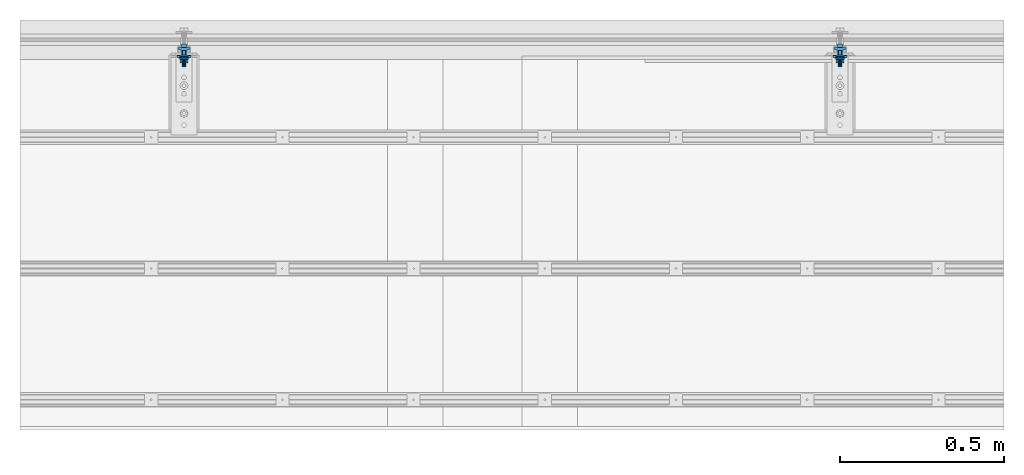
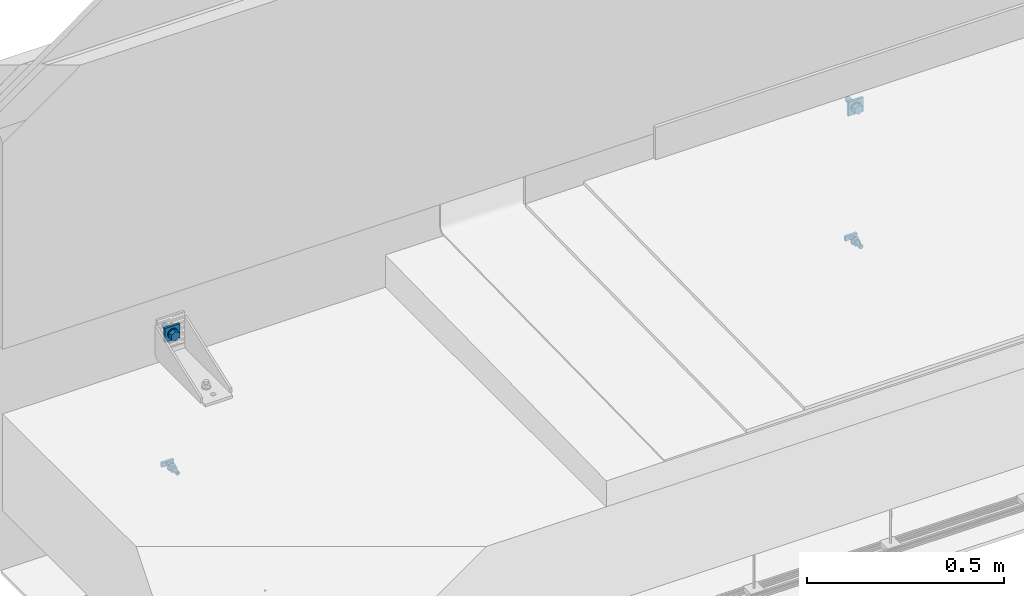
# One storey, part 5 of 8: 12 assemblies.
"""IFC2X3 building model written with IfcOpenShell, lengths in metres."""

from ifc_helpers import new_model, entity, si_unit, converted_unit, derived_unit, direction, frame, frame_2d, origin, place, context, subcontext, project, spatial, polyline, circle_curve, parameter, trimmed, segment, composite_curve, circle, hollow_circle, outline, extrude, faceted_brep, source, transform, mapped, material, type_object, type_shapes, element, save


model = new_model("IFC2X3")

# Units and contexts
model_context = context("Model", 3, precision=1e-05, world=origin(), true_north=direction((6.123031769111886e-17, 1.0)))
body_context = subcontext(model_context, "Body", "Model", "MODEL_VIEW")
ifc_project = project(units=[si_unit("LENGTHUNIT", "METRE"), si_unit("AREAUNIT", "SQUARE_METRE"), converted_unit("PLANEANGLEUNIT", "DEGREE", entity("IfcPlaneAngleMeasure", 0.017453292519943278), si_unit("PLANEANGLEUNIT", "RADIAN"), dimensions=[0, 0, 0, 0, 0, 0, 0]), si_unit("VOLUMEUNIT", "CUBIC_METRE"), derived_unit("THERMALTRANSMITTANCEUNIT", [(si_unit("MASSUNIT", "GRAM", prefix="KILO"), 1), (si_unit("THERMODYNAMICTEMPERATUREUNIT", "KELVIN"), -1), (si_unit("TIMEUNIT", "SECOND"), -3)]), derived_unit("USERDEFINED", [(si_unit("MASSUNIT", "GRAM", prefix="KILO"), 1), (si_unit("THERMODYNAMICTEMPERATUREUNIT", "KELVIN"), -1), (si_unit("TIMEUNIT", "SECOND"), -2)]), derived_unit("THERMALRESISTANCEUNIT", [(si_unit("MASSUNIT", "GRAM", prefix="KILO"), -1), (si_unit("TIMEUNIT", "SECOND"), 3), (si_unit("THERMODYNAMICTEMPERATUREUNIT", "KELVIN"), 1)]), si_unit("PRESSUREUNIT", "PASCAL"), derived_unit("MASSDENSITYUNIT", [(si_unit("MASSUNIT", "GRAM", prefix="KILO"), 1), (si_unit("LENGTHUNIT", "METRE"), -3)]), derived_unit("VAPORPERMEABILITYUNIT", [(si_unit("LENGTHUNIT", "METRE"), -1), (si_unit("TIMEUNIT", "SECOND"), 1)]), derived_unit("USERDEFINED", [(si_unit("MASSUNIT", "GRAM", prefix="KILO"), 1), (si_unit("TIMEUNIT", "SECOND"), -3), (si_unit("LENGTHUNIT", "METRE"), 3), (si_unit("ELECTRICCURRENTUNIT", "AMPERE"), -2)])], contexts=[model_context])

# Site, building, storey
site_placement = place(None, origin())
site = spatial("IfcSite", under=ifc_project, at=site_placement, Name="Default", CompositionType="ELEMENT")
building_placement = place(site_placement, origin())
building = spatial("IfcBuilding", under=site, at=building_placement, CompositionType="ELEMENT")
storey_placement = place(building_placement, origin())
storey = spatial("IfcBuildingStorey", under=building, at=storey_placement, Name="L0", CompositionType="ELEMENT", Elevation=0.0)

# Assemblies
ifc_material = material(Name="REC_Acero, S 275JR (Zincado)")
type_product_1 = type_object("IfcTypeProduct", Name="REC-A-M16:A-M16", material=ifc_material)
shared_shape_1 = source(origin(), body_context, "Body", "SweptSolid", [
    extrude(hollow_circle(Radius=0.015, WallThickness=0.006499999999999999, at=frame_2d((1.062573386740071e-19, -2.4233168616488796e-17), x_axis=(1.0, 0.0))), origin(), (0.0, 0.0, 1.0), 0.003),
])
type_shapes(type_product_1, [shared_shape_1])
for number, where, z_axis, x_axis in (
    (1, (5.387720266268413, 15.919905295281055, 0.07200000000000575), (0.0, -1.0, 0.0), (1.0, 0.0, 0.0)),
    (2, (7.387720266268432, 15.91990529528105, 0.07200000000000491), (0.0, -1.0, 0.0), (1.0, 0.0, 0.0)),
):
    element("IfcElementAssembly", number, at=place(storey_placement, frame(where, z_axis=z_axis, x_axis=x_axis)), inside=storey, type_object=type_product_1, material=ifc_material, Name="REC-A-M16:A-M16", ObjectType="REC-A-M16:A-M16", AssemblyPlace="NOTDEFINED", PredefinedType="NOTDEFINED", context=body_context, shape_type="MappedRepresentation", body=[
        mapped(shared_shape_1, transform((0.0, 0.0, 0.0), scale=1.0)),
    ])
type_product_2 = type_object("IfcTypeProduct", Name="REC-M16-45:M16-45", material=ifc_material)
shared_shape_2 = source(origin(), body_context, "Body", "SweptSolid", [
    extrude(outline(polyline([(-0.0070686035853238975, -0.012243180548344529), (0.007068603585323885, -0.012243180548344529), (0.014137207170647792, 0.0), (0.007068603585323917, 0.012243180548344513), (-0.007068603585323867, 0.012243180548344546), (-0.014137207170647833, 0.0), (-0.0070686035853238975, -0.012243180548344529)])), origin(), (0.0, 0.0, 1.0), 0.013000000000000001),
    extrude(circle(Radius=0.008, at=frame_2d((-5.2874371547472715e-19, -1.2924356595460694e-17), x_axis=(1.0, 0.0))), frame((0.0, 0.0, -0.045000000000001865)), (0.0, 0.0, 1.0), 0.045000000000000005),
])
type_shapes(type_product_2, [shared_shape_2])
for number, where, z_axis, x_axis, name in (
    (3, (5.387720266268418, 15.916905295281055, 0.07199999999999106), (0.0, -1.0, 0.0), (0.0, 0.0, 1.0), "REC-M16-45:M16-45"),
    (4, (7.387720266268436, 15.916905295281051, 0.07199999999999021), (0.0, -1.0, 0.0), (0.0, 0.0, 1.0), "REC-M16-45:M16-45"),
):
    element("IfcElementAssembly", number, at=place(storey_placement, frame(where, z_axis=z_axis, x_axis=x_axis)), inside=storey, type_object=type_product_2, material=ifc_material, Name=name, ObjectType="REC-M16-45:M16-45", AssemblyPlace="NOTDEFINED", PredefinedType="NOTDEFINED", context=body_context, shape_type="MappedRepresentation", body=[
        mapped(shared_shape_2, transform((0.0, 0.0, 0.0), scale=1.0)),
    ])
type_product_3 = type_object("IfcTypeProduct", Name="REC-TPH1250:TPH1250", material=ifc_material)
shared_shape_3 = source(origin(), body_context, "Body", "Brep", [
    faceted_brep([(-0.005512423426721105, 0.006999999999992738, 0.04999470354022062), (-0.005512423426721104, 0.006999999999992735, 0.050994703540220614), (-0.017500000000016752, 0.006999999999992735, 0.050994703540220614), (-0.017500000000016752, 0.006999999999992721, 0.05849470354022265), (0.01750000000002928, 0.006999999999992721, 0.05849470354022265), (0.01750000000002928, 0.006999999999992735, 0.0509947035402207), (0.00551242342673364, 0.006999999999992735, 0.0509947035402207), (0.00551242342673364, 0.006999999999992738, 0.04999470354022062), (-0.005512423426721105, -0.007000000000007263, 0.04999470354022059), (0.00551242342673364, -0.007000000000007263, 0.04999470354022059), (0.00551242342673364, -0.007000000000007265, 0.05099470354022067), (0.01750000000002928, -0.007000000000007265, 0.05099470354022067), (0.01750000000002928, -0.007000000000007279, 0.058494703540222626), (-0.017500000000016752, -0.007000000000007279, 0.058494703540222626), (-0.017500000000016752, -0.007000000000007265, 0.050994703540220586), (-0.005512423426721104, -0.007000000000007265, 0.050994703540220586)], [[[0, 1, 2, 3, 4, 5, 6, 7]], [[8, 9, 10, 11, 12, 13, 14, 15]], [[1, 0, 8, 15]], [[3, 2, 14, 13]], [[4, 3, 13, 12]], [[5, 4, 12, 11]], [[6, 5, 11, 10]], [[7, 6, 10, 9]], [[0, 7, 9, 8]], [[2, 1, 15, 14]]]),
    faceted_brep([(0.002796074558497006, -0.002860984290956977, 0.0489420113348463), (-3.2352566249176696e-05, -0.004032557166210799, 0.0489420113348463), (-0.0028607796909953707, -0.002860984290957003, 0.0489420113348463), (-0.004032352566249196, -3.255716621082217e-05, 0.048942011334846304), (-0.0028607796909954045, 0.0027958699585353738, 0.048942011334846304), (-3.235256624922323e-05, 0.0039674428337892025, 0.04894201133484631), (0.0027960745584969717, 0.0027958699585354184, 0.048942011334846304), (0.00396764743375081, -3.2557166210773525e-05, 0.048942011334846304), (0.002796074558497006, -0.002860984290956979, 0.0499947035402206), (0.00396764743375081, -3.255716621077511e-05, 0.04999470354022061), (0.0027960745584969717, 0.0027958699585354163, 0.04999470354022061), (-3.235256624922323e-05, 0.0039674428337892, 0.04999470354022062), (-0.0028607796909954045, 0.0027958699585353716, 0.04999470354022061), (-0.004032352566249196, -3.2557166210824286e-05, 0.04999470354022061), (-0.0028607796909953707, -0.002860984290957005, 0.0499947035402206), (-3.2352566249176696e-05, -0.0040325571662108, 0.0499947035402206)], [[[0, 1, 2, 3, 4, 5, 6, 7]], [[8, 9, 10, 11, 12, 13, 14, 15]], [[1, 0, 8, 15]], [[2, 1, 15, 14]], [[3, 2, 14, 13]], [[4, 3, 13, 12]], [[5, 4, 12, 11]], [[6, 5, 11, 10]], [[7, 6, 10, 9]], [[0, 7, 9, 8]]]),
    faceted_brep([(0.004541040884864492, -0.00392160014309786, 0.0), (0.0008991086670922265, -0.005932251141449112, 0.0), (0.0008991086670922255, 0.00593225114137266, 0.0), (0.004555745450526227, 0.0039045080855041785, 0.0), (0.005999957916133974, -2.2472309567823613e-05, 0.0), (-0.0008991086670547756, -0.005932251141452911, 0.0), (-0.004556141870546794, -0.00390404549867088, 0.0), (-0.005999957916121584, 2.2472309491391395e-05, 0.0), (-0.004541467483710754, 0.0039211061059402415, 0.0), (-0.0008991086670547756, 0.005932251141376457, 0.0), (2.2472309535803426e-05, 0.0059999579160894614, 0.04894201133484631), (-0.0015311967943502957, 0.005801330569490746, 0.04894201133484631), (-0.002980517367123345, 0.005207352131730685, 0.04894201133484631), (-0.004226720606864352, 0.004258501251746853, 0.04894201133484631), (-0.005184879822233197, 0.0030194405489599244, 0.04894201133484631), (-0.005789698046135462, 0.0015746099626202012, 0.048942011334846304), (-0.005999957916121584, 2.247230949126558e-05, 0.048942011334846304), (-0.005801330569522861, -0.0015311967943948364, 0.048942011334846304), (-0.005207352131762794, -0.0029805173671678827, 0.0489420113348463), (-0.004258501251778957, -0.004226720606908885, 0.0489420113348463), (-0.003019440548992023, -0.005184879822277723, 0.0489420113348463), (-0.001574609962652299, -0.005789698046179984, 0.0489420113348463), (-2.2472309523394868e-05, -0.005999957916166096, 0.0489420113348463), (0.0015311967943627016, -0.005801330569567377, 0.0489420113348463), (0.002980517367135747, -0.005207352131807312, 0.0489420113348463), (0.0042267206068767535, -0.004258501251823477, 0.0489420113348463), (0.005184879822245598, -0.0030194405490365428, 0.0489420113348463), (0.005789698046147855, -0.0015746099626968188, 0.048942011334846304), (0.005999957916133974, -2.2472309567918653e-05, 0.048942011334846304), (0.005801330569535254, 0.0015311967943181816, 0.048942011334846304), (0.005207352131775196, 0.002980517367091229, 0.04894201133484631), (0.004258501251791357, 0.004226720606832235, 0.04894201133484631), (0.0030194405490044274, 0.005184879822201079, 0.04894201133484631), (0.0015746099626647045, 0.005789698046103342, 0.04894201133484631), (0.0008991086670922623, -0.005932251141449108, 0.0014985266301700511), (0.0, -0.0060000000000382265, 0.0014985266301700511), (-0.000899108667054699, -0.005932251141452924, 0.0014985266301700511), (-0.0008991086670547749, 0.005932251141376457, 0.001498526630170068), (0.0, 0.00599999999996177, 0.001498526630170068), (0.0008991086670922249, 0.005932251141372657, 0.001498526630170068)], [[[0, 1, 2, 3, 4]], [[5, 6, 7, 8, 9]], [[10, 11, 12, 13, 14, 15, 16, 17, 18, 19, 20, 21, 22, 23, 24, 25, 26, 27, 28, 29, 30, 31, 32, 33]], [[4, 28, 27]], [[0, 26, 25]], [[27, 26, 0]], [[25, 24, 34]], [[27, 0, 4]], [[24, 23, 34]], [[25, 34, 0]], [[34, 1, 0]], [[22, 35, 34]], [[34, 23, 22]], [[36, 22, 21]], [[36, 20, 19]], [[21, 20, 36]], [[19, 18, 6]], [[5, 36, 6]], [[36, 19, 6]], [[17, 16, 7]], [[17, 7, 6]], [[18, 17, 6]], [[36, 35, 22]], [[7, 16, 15]], [[8, 14, 13]], [[15, 14, 8]], [[13, 12, 37]], [[15, 8, 7]], [[12, 11, 37]], [[13, 37, 8]], [[37, 9, 8]], [[10, 38, 37]], [[37, 11, 10]], [[39, 10, 33]], [[39, 32, 31]], [[33, 32, 39]], [[31, 30, 3]], [[2, 39, 3]], [[39, 31, 3]], [[29, 28, 4]], [[29, 4, 3]], [[30, 29, 3]], [[39, 38, 10]], [[36, 5, 9, 37]], [[34, 35, 36, 37, 38, 39]], [[34, 39, 2, 1]]]),
])
type_shapes(type_product_3, [shared_shape_3])
for number, where, z_axis, x_axis, name in (
    (5, (5.387720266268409, 15.891535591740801, -0.344999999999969), (0.0, 1.0, 0.0), (-1.0, 0.0, 0.0), "REC-TPH1250:TPH1250"),
    (6, (7.387720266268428, 15.891535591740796, -0.3449999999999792), (0.0, 1.0, 0.0), (-1.0, 0.0, 0.0), "REC-TPH1250:TPH1250"),
):
    element("IfcElementAssembly", number, at=place(storey_placement, frame(where, z_axis=z_axis, x_axis=x_axis)), inside=storey, type_object=type_product_3, material=ifc_material, Name=name, ObjectType="REC-TPH1250:TPH1250", AssemblyPlace="NOTDEFINED", PredefinedType="NOTDEFINED", context=body_context, shape_type="MappedRepresentation", body=[
        mapped(shared_shape_3, transform((0.0, 0.0, 0.0), scale=1.0)),
    ])
type_product_4 = type_object("IfcTypeProduct", Name="GEN-A-M12:A-M12", material=ifc_material)
shared_shape_4 = source(origin(), body_context, "Body", "SweptSolid", [
    extrude(hollow_circle(Radius=0.011999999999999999, WallThickness=0.004999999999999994, at=frame_2d((1.062573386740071e-19, -1.9386534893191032e-17), x_axis=(1.0, 0.0))), origin(), (0.0, 0.0, 1.0), 0.002399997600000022),
])
type_shapes(type_product_4, [shared_shape_4])
for number, where, z_axis, x_axis in (
    (7, (5.387720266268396, 15.926530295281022, -0.3449999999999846), (0.0, -1.0, 0.0), (-1.0, 0.0, 0.0)),
    (8, (7.387720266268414, 15.926530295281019, -0.3449999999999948), (0.0, -1.0, 0.0), (-1.0, 0.0, 0.0)),
):
    element("IfcElementAssembly", number, at=place(storey_placement, frame(where, z_axis=z_axis, x_axis=x_axis)), inside=storey, type_object=type_product_4, material=ifc_material, Name="GEN-A-M12:A-M12", ObjectType="GEN-A-M12:A-M12", AssemblyPlace="NOTDEFINED", PredefinedType="NOTDEFINED", context=body_context, shape_type="MappedRepresentation", body=[
        mapped(shared_shape_4, transform((0.0, 0.0, 0.0), scale=1.0)),
    ])
type_product_5 = type_object("IfcTypeProduct", Name="GEN-T-M12:T-M12", material=ifc_material)
shared_shape_5 = source(origin(), body_context, "Body", "SweptSolid", [
    extrude(outline(polyline([(-0.005890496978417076, -0.010202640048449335), (0.005890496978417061, -0.010202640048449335), (0.01178099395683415, 0.0), (0.005890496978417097, 0.010202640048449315), (-0.0058904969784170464, 0.010202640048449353), (-0.011780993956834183, 0.0), (-0.005890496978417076, -0.010202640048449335)]), holes=[composite_curve([segment(trimmed(circle_curve(frame_2d((6.043164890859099e-09, 0.0), x_axis=(1.0, 0.0)), 0.005999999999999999), [parameter(3.053332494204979e-13)], [parameter(180.0)], True, "PARAMETER"), False, "CONTINUOUS"), segment(trimmed(circle_curve(frame_2d((6.043164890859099e-09, 0.0), x_axis=(1.0, 0.0)), 0.005999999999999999), [parameter(179.99999999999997)], [parameter(0.0)], True, "PARAMETER"), False, "CONTINUOUS")], self_intersect=False)]), frame((-6.043164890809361e-09, 0.0, 0.0)), (0.0, 0.0, 1.0), 0.01),
])
type_shapes(type_product_5, [shared_shape_5])
for number, where, z_axis, x_axis in (
    (9, (5.3877202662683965, 15.924130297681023, -0.34499999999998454), (0.0, -1.0, 0.0), (-1.0, 0.0, 0.0)),
    (10, (7.387720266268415, 15.924130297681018, -0.34499999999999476), (0.0, -1.0, 0.0), (-1.0, 0.0, 0.0)),
):
    element("IfcElementAssembly", number, at=place(storey_placement, frame(where, z_axis=z_axis, x_axis=x_axis)), inside=storey, type_object=type_product_5, material=ifc_material, Name="GEN-T-M12:T-M12", ObjectType="GEN-T-M12:T-M12", AssemblyPlace="NOTDEFINED", PredefinedType="NOTDEFINED", context=body_context, shape_type="MappedRepresentation", body=[
        mapped(shared_shape_5, transform((0.0, 0.0, 0.0), scale=1.0)),
    ])
type_product_6 = type_object("IfcTypeProduct", Name="REC-CPA448T17:CPA448T17", material=ifc_material)
shared_shape_6 = source(origin(), body_context, "Body", "Brep", [
    faceted_brep([(-0.0045576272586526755, -0.007174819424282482, 0.0008251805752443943), (-0.002872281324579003, -0.007999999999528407, 0.0), (-0.022000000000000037, -0.007999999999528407, 0.0), (-0.02200000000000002, -0.005999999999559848, 0.001999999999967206), (-0.006020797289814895, -0.005999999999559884, 0.0019999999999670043), (0.02199999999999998, -0.0059999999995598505, 0.0019999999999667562), (0.02199999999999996, -0.007999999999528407, 0.0), (0.0028722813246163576, -0.00799999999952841, 0.0), (0.004557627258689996, -0.007174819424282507, 0.0008251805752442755), (0.006020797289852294, -0.005999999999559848, 0.001999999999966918), (-0.006833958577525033, -0.0050544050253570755, 0.0010544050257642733), (-0.022000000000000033, -0.003999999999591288, 0.0), (-0.007500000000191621, -0.003999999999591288, 0.0), (0.02199999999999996, -0.003999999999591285, 0.0), (0.00683395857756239, -0.005054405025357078, 0.0010544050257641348), (0.007500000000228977, -0.003999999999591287, 0.0), (-0.007943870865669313, -0.0030240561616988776, 0.0009759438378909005), (-0.02200000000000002, -0.0019999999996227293, 0.001999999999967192), (-0.008261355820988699, -0.0019999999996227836, 0.0019999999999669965), (0.02199999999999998, -0.001999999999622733, 0.0019999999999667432), (0.00794387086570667, -0.0030240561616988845, 0.0009759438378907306), (0.008261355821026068, -0.0019999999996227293, 0.001999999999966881), (-0.008440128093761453, -0.0010070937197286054, 0.0010070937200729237), (-0.022000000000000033, 0.0, 0.0), (-0.008499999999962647, 0.0, 0.0), (0.02199999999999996, 0.0, 0.0), (0.00844012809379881, -0.0010070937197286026, 0.0010070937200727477), (0.008500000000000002, 0.0, 0.0), (-0.008261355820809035, 0.002000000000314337, 0.0019999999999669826), (-0.008440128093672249, 0.001007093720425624, 0.0010070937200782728), (-0.02200000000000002, 0.002000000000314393, 0.0019999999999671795), (0.02199999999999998, 0.002000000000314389, 0.0019999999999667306), (0.008440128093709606, 0.001007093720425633, 0.0010070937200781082), (0.00826135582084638, 0.002000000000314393, 0.0019999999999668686), (-0.007499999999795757, 0.004000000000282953, 0.0), (-0.007943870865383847, 0.003024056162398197, 0.0009759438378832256), (-0.022000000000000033, 0.0040000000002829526, 0.0), (0.02199999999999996, 0.004000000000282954, 0.0), (0.007943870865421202, 0.003024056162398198, 0.0009759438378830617), (0.007499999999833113, 0.0040000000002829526, 0.0), (-0.006020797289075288, 0.006000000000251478, 0.0019999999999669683), (-0.006833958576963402, 0.005054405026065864, 0.0010544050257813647), (-0.02200000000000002, 0.006000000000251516, 0.001999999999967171), (0.02199999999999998, 0.006000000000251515, 0.0019999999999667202), (0.0068339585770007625, 0.005054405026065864, 0.0010544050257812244), (0.006020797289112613, 0.006000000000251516, 0.001999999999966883), (-0.0028722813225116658, 0.008000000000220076, 0.0), (-0.004557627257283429, 0.007174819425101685, 0.0008251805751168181), (-0.022000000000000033, 0.008000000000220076, 0.0), (0.02199999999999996, 0.008000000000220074, 0.0), (0.0045576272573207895, 0.007174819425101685, 0.0008251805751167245), (0.0028722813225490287, 0.008000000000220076, 0.0), (0.02199999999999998, -0.009999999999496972, 0.0019999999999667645), (0.02199999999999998, 0.010000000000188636, 0.0019999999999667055), (0.02199999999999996, 0.012000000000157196, 0.0), (0.02199999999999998, 0.014000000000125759, 0.0019999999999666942), (0.02199999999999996, 0.01600000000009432, 0.0), (0.02199999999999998, 0.018000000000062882, 0.001999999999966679), (0.02199999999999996, 0.02000000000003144, 0.0), (0.02199999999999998, 0.022000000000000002, 0.0019999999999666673), (0.022000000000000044, 0.022000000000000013, 0.007999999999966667), (0.022000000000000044, -0.022000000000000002, 0.007999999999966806), (0.02199999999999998, -0.022000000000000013, 0.002000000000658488), (0.02199999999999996, -0.019999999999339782, 0.0), (0.02199999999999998, -0.017999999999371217, 0.0019999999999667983), (0.02199999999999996, -0.015999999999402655, 0.0), (0.02199999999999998, -0.013999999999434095, 0.0019999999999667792), (0.02199999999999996, -0.01199999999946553, 0.0), (-0.022000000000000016, 0.018000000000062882, 0.0019999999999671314), (-0.022000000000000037, 0.01600000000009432, 0.0), (-0.022000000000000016, 0.014000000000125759, 0.001999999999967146), (-0.022000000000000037, 0.012000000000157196, 0.0), (-0.022000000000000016, 0.010000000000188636, 0.0019999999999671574), (-0.022000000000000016, -0.009999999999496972, 0.001999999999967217), (-0.022000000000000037, -0.01199999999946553, 0.0), (-0.022000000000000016, -0.013999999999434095, 0.0019999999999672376), (-0.022000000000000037, -0.015999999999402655, 0.0), (-0.022000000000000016, -0.017999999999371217, 0.0019999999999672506), (-0.022000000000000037, -0.019999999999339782, 0.0), (-0.022000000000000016, -0.022000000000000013, 0.0020000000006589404), (-0.021999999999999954, -0.022000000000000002, 0.007999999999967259), (-0.021999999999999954, 0.022000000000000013, 0.00799999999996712), (-0.022000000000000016, 0.022000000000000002, 0.0019999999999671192), (-0.022000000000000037, 0.02000000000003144, 0.0), (0.0073612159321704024, 0.004249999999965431, 0.007999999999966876), (0.00821036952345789, 0.002199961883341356, 0.007999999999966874), (0.006010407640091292, 0.00601040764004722, 0.007999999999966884), (0.008500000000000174, 0.0, 0.007999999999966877), (0.0042500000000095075, 0.007361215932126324, 0.007999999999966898), (0.0021999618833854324, 0.00821036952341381, 0.007999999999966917), (0.0, 0.00849999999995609, 0.007999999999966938), (-0.002199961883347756, 0.008210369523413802, 0.00799999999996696), (-0.004249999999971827, 0.007361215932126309, 0.007999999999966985), (-0.006010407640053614, 0.006010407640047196, 0.007999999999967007), (-0.007361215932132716, 0.004249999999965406, 0.007999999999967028), (-0.008210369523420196, 0.002199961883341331, 0.007999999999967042), (-0.008499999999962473, 0.0, 0.007999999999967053), (-0.008210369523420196, -0.0021999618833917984, 0.007999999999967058), (-0.00736121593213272, -0.004250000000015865, 0.007999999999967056), (-0.0060104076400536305, -0.006010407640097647, 0.007999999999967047), (-0.004249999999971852, -0.007361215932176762, 0.007999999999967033), (-0.0021999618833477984, -0.00821036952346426, 0.007999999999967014), (0.0, -0.008500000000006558, 0.007999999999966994), (0.008210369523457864, -0.002199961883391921, 0.007999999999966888), (0.007361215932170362, -0.00425000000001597, 0.007999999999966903), (0.006010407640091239, -0.00601040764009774, 0.007999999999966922), (0.00425000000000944, -0.00736121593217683, 0.007999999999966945), (0.002199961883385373, -0.008210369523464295, 0.00799999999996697), (0.0, -0.008500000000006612, 0.0005000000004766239), (0.0, 0.008499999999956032, 0.000499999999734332), (-0.008499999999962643, 0.0, 0.001058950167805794), (-0.008499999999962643, 0.0, 0.004235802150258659), (0.008500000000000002, 0.0, 0.0042358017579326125), (0.008500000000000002, 0.0, 0.002117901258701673), (0.008500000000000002, 0.0, 0.0010589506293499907), (-0.008499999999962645, 0.0, 0.0021179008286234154)], [[[0, 1, 2, 3, 4]], [[5, 6, 7, 8, 9]], [[10, 4, 3, 11, 12]], [[13, 5, 9, 14, 15]], [[16, 12, 11, 17, 18]], [[19, 13, 15, 20, 21]], [[22, 18, 17, 23, 24]], [[25, 19, 21, 26, 27]], [[28, 29, 24, 23, 30]], [[31, 25, 27, 32, 33]], [[34, 35, 28, 30, 36]], [[37, 31, 33, 38, 39]], [[40, 41, 34, 36, 42]], [[43, 37, 39, 44, 45]], [[46, 47, 40, 42, 48]], [[49, 43, 45, 50, 51]], [[52, 6, 5, 13, 19, 25, 31, 37, 43, 49, 53, 54, 55, 56, 57, 58, 59, 60, 61, 62, 63, 64, 65, 66, 67]], [[68, 69, 70, 71, 72, 48, 42, 36, 30, 23, 17, 11, 3, 2, 73, 74, 75, 76, 77, 78, 79, 80, 81, 82, 83]], [[59, 58, 83, 82]], [[60, 59, 82, 81]], [[60, 84, 85]], [[84, 60, 86]], [[60, 85, 87]], [[88, 86, 60]], [[89, 88, 60]], [[90, 89, 60]], [[60, 81, 90]], [[87, 61, 60]], [[91, 90, 81]], [[92, 91, 81]], [[93, 92, 81]], [[81, 94, 93]], [[94, 81, 95]], [[96, 95, 81]], [[81, 80, 96]], [[97, 96, 80]], [[98, 97, 80]], [[80, 99, 98]], [[99, 80, 100]], [[101, 100, 80]], [[102, 101, 80]], [[102, 80, 61]], [[61, 87, 103]], [[61, 103, 104]], [[104, 105, 61]], [[105, 106, 61]], [[106, 107, 61]], [[61, 107, 102]], [[62, 61, 80, 79]], [[63, 62, 79, 78]], [[64, 63, 78, 77]], [[65, 64, 77, 76]], [[66, 65, 76, 75]], [[67, 66, 75, 74]], [[52, 67, 74, 73]], [[6, 52, 73, 2, 1, 108, 7]], [[53, 49, 51, 109, 46, 48, 72]], [[54, 53, 72, 71]], [[55, 54, 71, 70]], [[56, 55, 70, 69]], [[57, 56, 69, 68]], [[58, 57, 68, 83]], [[16, 10, 12]], [[110, 22, 24]], [[9, 4, 102]], [[18, 10, 16]], [[0, 4, 108]], [[10, 18, 4]], [[111, 97, 98]], [[100, 4, 111]], [[97, 111, 96]], [[18, 111, 4]], [[99, 100, 111]], [[111, 98, 99]], [[4, 100, 101]], [[101, 102, 4]], [[108, 1, 0]], [[8, 7, 108]], [[9, 8, 108]], [[21, 112, 113, 114]], [[114, 27, 26]], [[22, 110, 18]], [[21, 20, 14]], [[18, 110, 115, 111]], [[87, 112, 103]], [[14, 20, 15]], [[106, 105, 112]], [[9, 106, 112]], [[9, 107, 106]], [[9, 102, 107]], [[112, 104, 103]], [[26, 21, 114]], [[105, 104, 112]], [[21, 9, 112]], [[21, 14, 9]], [[108, 4, 9]], [[38, 44, 39]], [[114, 32, 27]], [[40, 45, 90]], [[33, 44, 38]], [[50, 45, 109]], [[44, 33, 45]], [[112, 85, 84]], [[88, 45, 112]], [[85, 112, 87]], [[33, 112, 45]], [[86, 88, 112]], [[112, 84, 86]], [[45, 88, 89]], [[89, 90, 45]], [[109, 51, 50]], [[47, 46, 109]], [[40, 47, 109]], [[33, 114, 113, 112]], [[32, 114, 33]], [[110, 24, 29]], [[28, 35, 41]], [[28, 111, 115, 110]], [[96, 111, 95]], [[41, 35, 34]], [[92, 93, 111]], [[40, 92, 111]], [[40, 91, 92]], [[40, 90, 91]], [[111, 94, 95]], [[29, 28, 110]], [[93, 94, 111]], [[28, 40, 111]], [[28, 41, 40]], [[109, 45, 40]]]),
])
type_shapes(type_product_6, [shared_shape_6])
for number, where, z_axis, x_axis in (
    (11, (5.387720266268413, 15.927905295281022, 0.07199999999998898), (0.0, -1.0, 0.0), (-1.0, 0.0, 0.0)),
    (12, (7.387720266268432, 15.927905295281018, 0.07199999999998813), (0.0, -1.0, 0.0), (-1.0, 0.0, 0.0)),
):
    element("IfcElementAssembly", number, at=place(storey_placement, frame(where, z_axis=z_axis, x_axis=x_axis)), inside=storey, type_object=type_product_6, material=ifc_material, Name="REC-CPA448T17:CPA448T17", ObjectType="REC-CPA448T17:CPA448T17", AssemblyPlace="NOTDEFINED", PredefinedType="NOTDEFINED", context=body_context, shape_type="MappedRepresentation", body=[
        mapped(shared_shape_6, transform((0.0, 0.0, 0.0), scale=1.0)),
    ])

save(model, "model.ifc")
